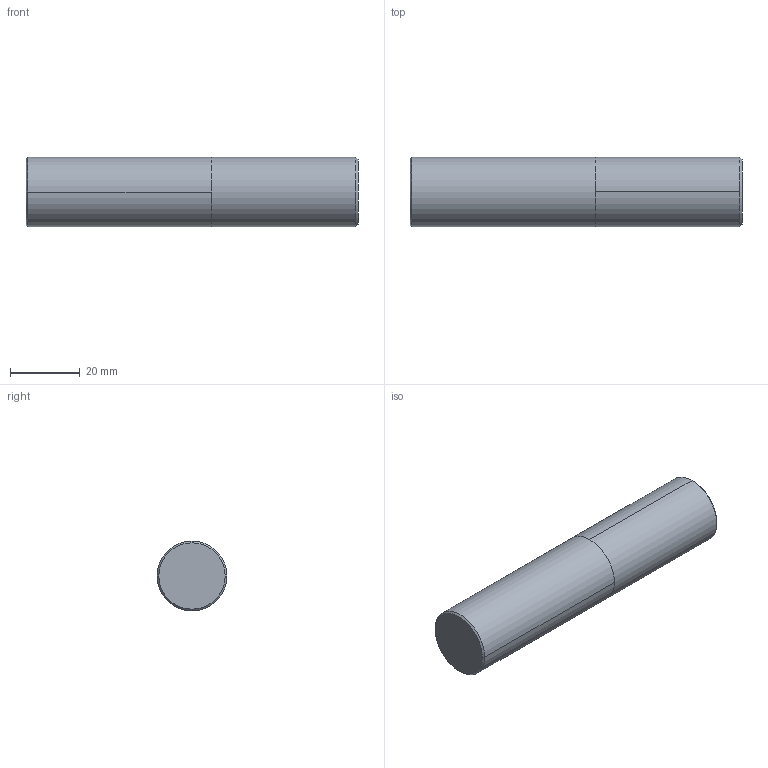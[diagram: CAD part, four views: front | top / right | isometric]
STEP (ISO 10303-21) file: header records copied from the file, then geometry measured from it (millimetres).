
FILE_DESCRIPTION (( 'STEP AP203' ), '1' );
FILE_NAME ('03-1764.STEP', '2021-09-10T07:22:33', ( 'USER' ), ( 'Hewlett-Packard Company' ), 'SwSTEP 2.0', 'SolidWorks 2014', '' );
FILE_SCHEMA (( 'CONFIG_CONTROL_DESIGN' ));
Length unit declared in the file: millimetre
Products named in the file (1): 03-1764
Bounding box: 95 x 20 x 20 mm (x, y, z)
Volume: 29826.3 mm3; surface area: 7184.4 mm2
Topology: 2 solids, 2 shells, 12 faces, 20 edges, 12 vertices
Faces by surface type: cylinder 4, cone 4, plane 4
Entity records: 359 total; most frequent: DIRECTION 58, CARTESIAN_POINT 45, ORIENTED_EDGE 40, AXIS2_PLACEMENT_3D 25, EDGE_CURVE 20, CIRCLE 12, EDGE_LOOP 12, FACE_OUTER_BOUND 12
